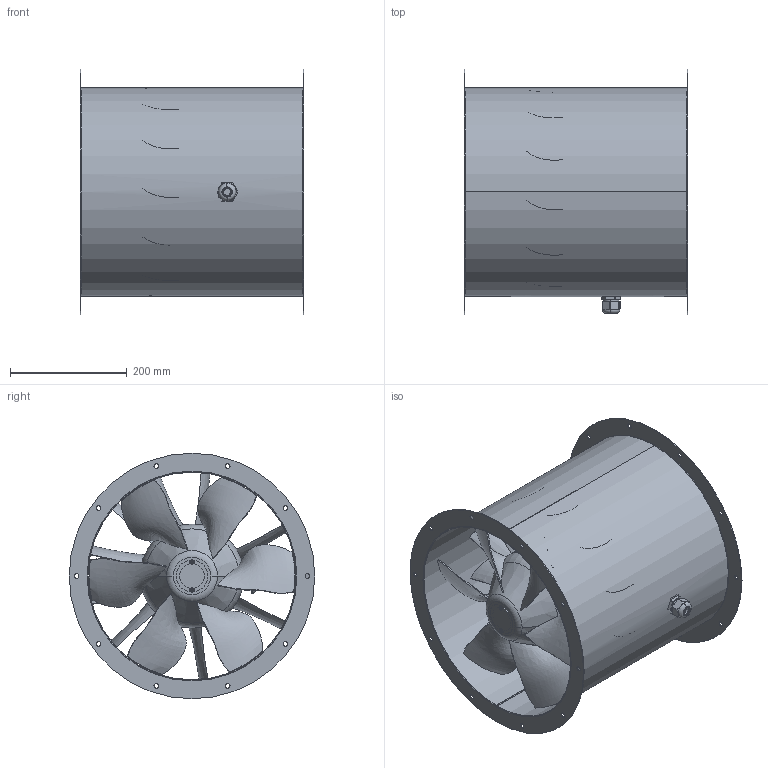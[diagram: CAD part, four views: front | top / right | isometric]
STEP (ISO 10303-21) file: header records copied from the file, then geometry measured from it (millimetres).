
FILE_DESCRIPTION (( 'STEP AP203' ), '1' );
FILE_NAME ('154123-00_AL355D401_step.step', '2020-05-29T10:10:05', ( '' ), ( '' ), 'SwSTEP 2.0', 'SolidWorks 2017', '' );
FILE_SCHEMA (( 'CONFIG_CONTROL_DESIGN' ));
Length unit declared in the file: millimetre
Products named in the file (1): 154123-00_AL355D401_step
Bounding box: 383 x 420 x 420 mm (x, y, z)
Surface area: 1384059.5 mm2 (no closed solid volume)
Topology: 0 solids, 36 shells, 547 faces, 1880 edges, 1331 vertices
Faces by surface type: plane 381, cylinder 96, bspline 37, torus 24, cone 9
Entity records: 245556 total; most frequent: CARTESIAN_POINT 229924, DIRECTION 2928, ORIENTED_EDGE 2858, EDGE_CURVE 1880, LINE 1338, VECTOR 1338, VERTEX_POINT 1331, AXIS2_PLACEMENT_3D 795
